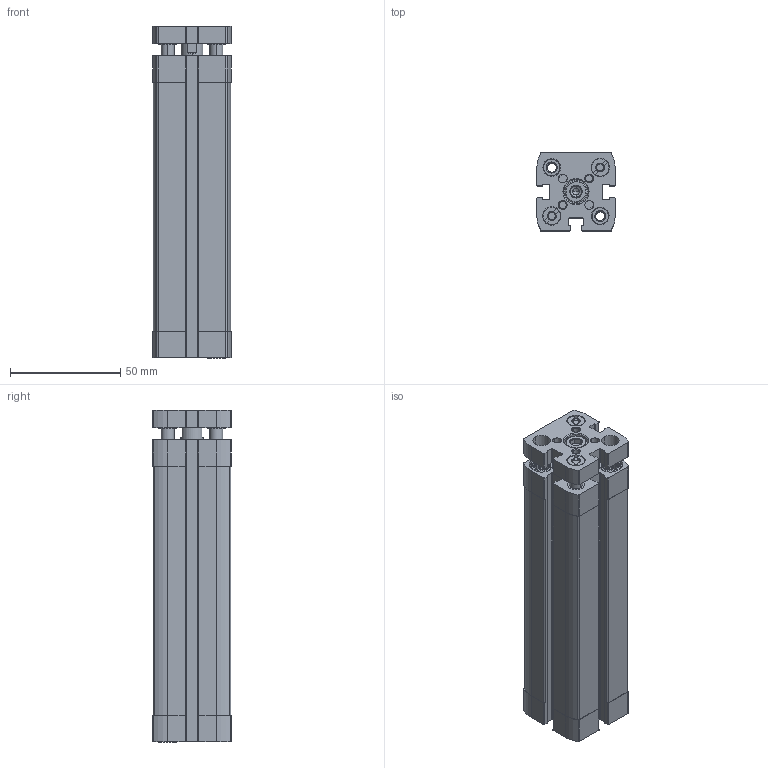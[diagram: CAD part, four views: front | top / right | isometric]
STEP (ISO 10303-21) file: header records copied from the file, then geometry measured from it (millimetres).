
FILE_DESCRIPTION (( 'STEP AP203' ), '1' );
FILE_NAME ('CCN20-100.STEP', '2017-04-13T18:19:29', ( '' ), ( '' ), 'SwSTEP 2.0', 'SolidWorks 2016', '' );
FILE_SCHEMA (( 'CONFIG_CONTROL_DESIGN' ));
Length unit declared in the file: millimetre
Products named in the file (3): CCNG-20-100----(Z); CCNG-20-100---(KS); CCN20-100
Assembly tree (2 placements, depth 2):
  CCN20-100
    CCNG-20-100----(Z)
    CCNG-20-100---(KS)
Bounding box: 35.5 x 35.5 x 150.5 mm (x, y, z)
Volume: 127506.6 mm3; surface area: 60366.6 mm2
Topology: 2 solids, 6 shells, 598 faces, 1576 edges, 1026 vertices
Faces by surface type: plane 301, cylinder 214, cone 77, bspline 6
Entity records: 19180 total; most frequent: CARTESIAN_POINT 3738, DIRECTION 3265, ORIENTED_EDGE 3148, EDGE_CURVE 1574, AXIS2_PLACEMENT_3D 1227, VERTEX_POINT 1026, VECTOR 811, LINE 811
